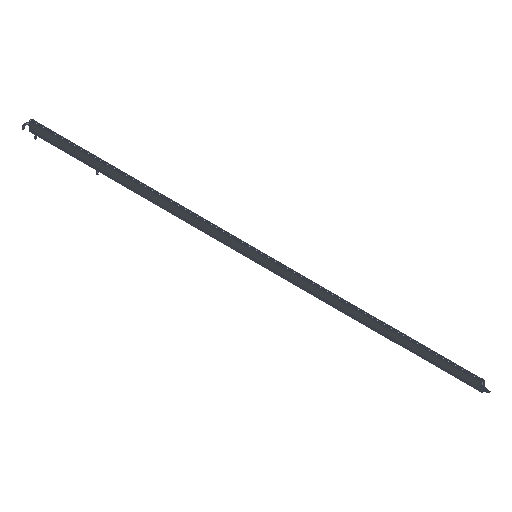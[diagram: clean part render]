
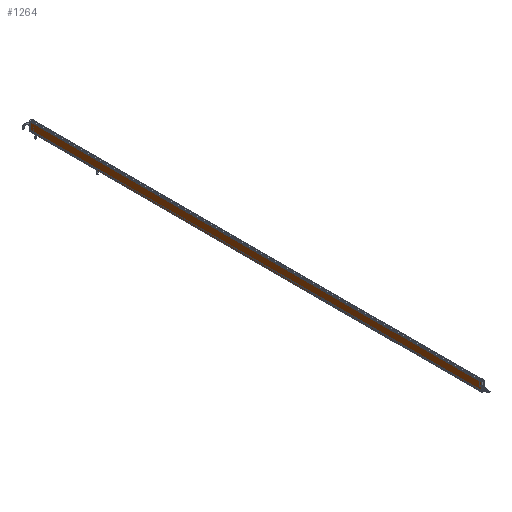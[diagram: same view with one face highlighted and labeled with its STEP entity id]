
A CAD part, isometric view. The second image highlights one B-rep face of the part: STEP entity #1264.
In plain terms, the highlighted planar face has unit normal (-1, 0, 0).
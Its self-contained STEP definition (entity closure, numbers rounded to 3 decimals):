
#1019 = VECTOR ( 'NONE', #18870, 1000. ) ;
#1264 = ADVANCED_FACE ( 'NONE', ( #10586 ), #9473, .T. ) ;
#1567 = CARTESIAN_POINT ( 'NONE',  ( -9., 1465., 28.5 ) ) ;
#2385 = CARTESIAN_POINT ( 'NONE',  ( -9., 0., 28.5 ) ) ;
#2443 = ORIENTED_EDGE ( 'NONE', *, *, #6225, .F. ) ;
#2474 = DIRECTION ( 'NONE',  ( 0., -1., 0. ) ) ;
#2915 = CARTESIAN_POINT ( 'NONE',  ( -9., 1465., 28.5 ) ) ;
#3483 = LINE ( 'NONE', #20455, #19915 ) ;
#3647 = LINE ( 'NONE', #18192, #6379 ) ;
#3882 = DIRECTION ( 'NONE',  ( 0., 0., -1. ) ) ;
#5163 = ORIENTED_EDGE ( 'NONE', *, *, #8646, .F. ) ;
#6225 = EDGE_CURVE ( 'NONE', #17606, #6641, #3483, .T. ) ;
#6324 = ORIENTED_EDGE ( 'NONE', *, *, #20451, .T. ) ;
#6379 = VECTOR ( 'NONE', #3882, 1000. ) ;
#6641 = VERTEX_POINT ( 'NONE', #10393 ) ;
#8646 = EDGE_CURVE ( 'NONE', #9025, #17606, #17445, .T. ) ;
#9025 = VERTEX_POINT ( 'NONE', #10870 ) ;
#9320 = VECTOR ( 'NONE', #2474, 1000. ) ;
#9473 = PLANE ( 'NONE',  #11103 ) ;
#10393 = CARTESIAN_POINT ( 'NONE',  ( -9., 0., 0.5 ) ) ;
#10586 = FACE_OUTER_BOUND ( 'NONE', #16493, .T. ) ;
#10870 = CARTESIAN_POINT ( 'NONE',  ( -9., 1465., 28.5 ) ) ;
#11103 = AXIS2_PLACEMENT_3D ( 'NONE', #1567, #11236, #12661 ) ;
#11236 = DIRECTION ( 'NONE',  ( -1., 0., 0. ) ) ;
#12054 = VERTEX_POINT ( 'NONE', #12617 ) ;
#12617 = CARTESIAN_POINT ( 'NONE',  ( -9., 1465., 0.5 ) ) ;
#12661 = DIRECTION ( 'NONE',  ( 0., -1., 0. ) ) ;
#13647 = EDGE_CURVE ( 'NONE', #12054, #6641, #18038, .T. ) ;
#16493 = EDGE_LOOP ( 'NONE', ( #2443, #5163, #6324, #17806 ) ) ;
#16692 = CARTESIAN_POINT ( 'NONE',  ( -9., 1465., 0.5 ) ) ;
#17445 = LINE ( 'NONE', #2915, #1019 ) ;
#17606 = VERTEX_POINT ( 'NONE', #2385 ) ;
#17806 = ORIENTED_EDGE ( 'NONE', *, *, #13647, .T. ) ;
#18038 = LINE ( 'NONE', #16692, #9320 ) ;
#18192 = CARTESIAN_POINT ( 'NONE',  ( -9., 1465., 28.5 ) ) ;
#18870 = DIRECTION ( 'NONE',  ( 0., -1., 0. ) ) ;
#19915 = VECTOR ( 'NONE', #20606, 1000. ) ;
#20451 = EDGE_CURVE ( 'NONE', #9025, #12054, #3647, .T. ) ;
#20455 = CARTESIAN_POINT ( 'NONE',  ( -9., 0., 28.5 ) ) ;
#20606 = DIRECTION ( 'NONE',  ( 0., 0., -1. ) ) ;
